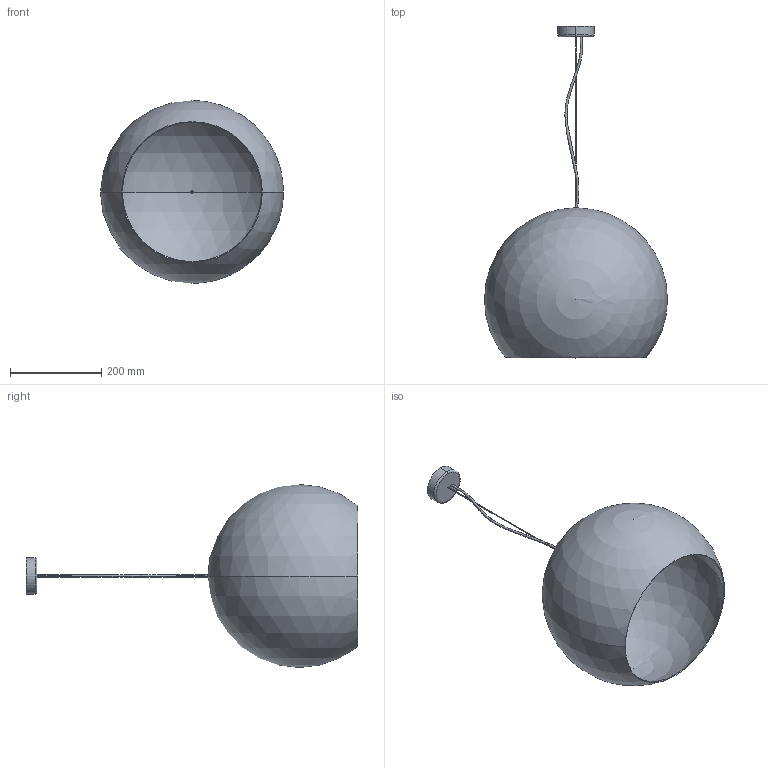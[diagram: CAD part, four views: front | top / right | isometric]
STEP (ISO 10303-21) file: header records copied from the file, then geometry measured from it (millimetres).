
FILE_DESCRIPTION (( 'STEP AP203' ), '1' );
FILE_NAME ('SPHERE 400 3D MODEL.STEP', '2016-09-28T15:01:31', ( '' ), ( '' ), 'SwSTEP 2.0', 'SolidWorks 2016', '' );
FILE_SCHEMA (( 'CONFIG_CONTROL_DESIGN' ));
Length unit declared in the file: millimetre
Products named in the file (1): SPHERE 400 3D MODEL
Bounding box: 400 x 725.5 x 400 mm (x, y, z)
Volume: 942309.9 mm3; surface area: 841087.1 mm2
Topology: 1 solids, 1 shells, 20 faces, 63 edges, 37 vertices
Faces by surface type: cylinder 8, sphere 4, cone 2, bspline 2, torus 2, plane 2
Entity records: 1339 total; most frequent: CARTESIAN_POINT 790, ORIENTED_EDGE 106, DIRECTION 92, EDGE_CURVE 53, AXIS2_PLACEMENT_3D 41, VERTEX_POINT 31, EDGE_LOOP 22, CIRCLE 22
